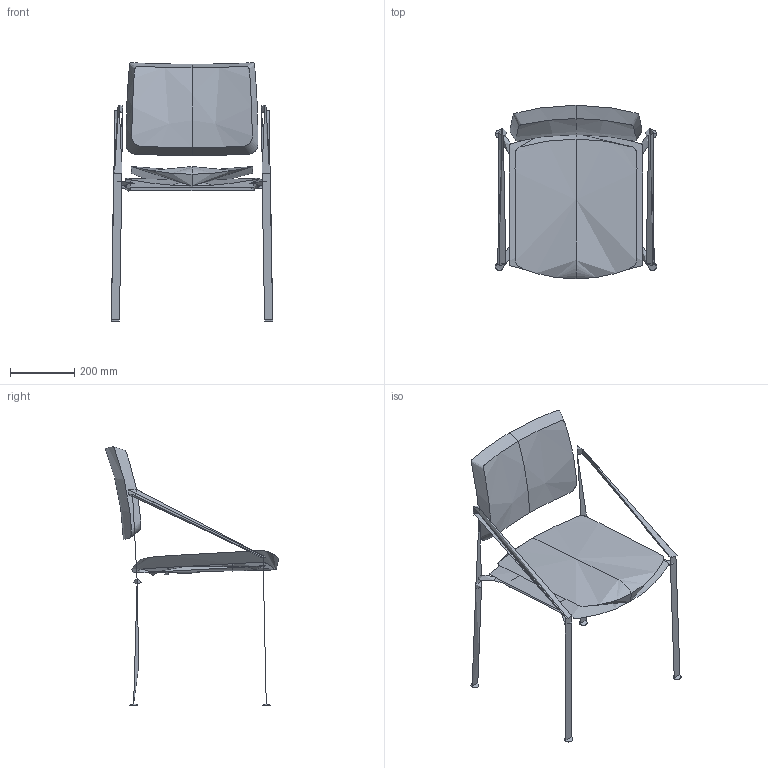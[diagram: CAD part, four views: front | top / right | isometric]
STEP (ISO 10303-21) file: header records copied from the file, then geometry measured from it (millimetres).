
FILE_DESCRIPTION(/* description */ (''),/* implementation_level */ '2;1');
FILE_NAME(/* name */ 'CONFER~1',/* time_stamp */ '2017-09-05T22:52:56+02:00',/* author */ (''),/* organization */ (''),/* preprocessor_version */ 'ST-DEVELOPER v15',/* originating_system */ '',/* authorisation */ '');
FILE_SCHEMA (('CONFIG_CONTROL_DESIGN'));
Length unit declared in the file: millimetre
Products named in the file (1): Document
Bounding box: 501 x 538.71 x 802.93 mm (x, y, z)
Volume: 4330904.8 mm3; surface area: 1122427.6 mm2
Topology: 1 solids, 17 shells, 76 faces, 179 edges, 104 vertices
Faces by surface type: bspline 72, plane 4
Entity records: 9911 total; most frequent: CARTESIAN_POINT 8871, ORIENTED_EDGE 292, EDGE_CURVE 174, VERTEX_POINT 104, ADVANCED_FACE 76, FACE_OUTER_BOUND 76, EDGE_LOOP 76, B_SPLINE_CURVE_WITH_KNOTS 68
